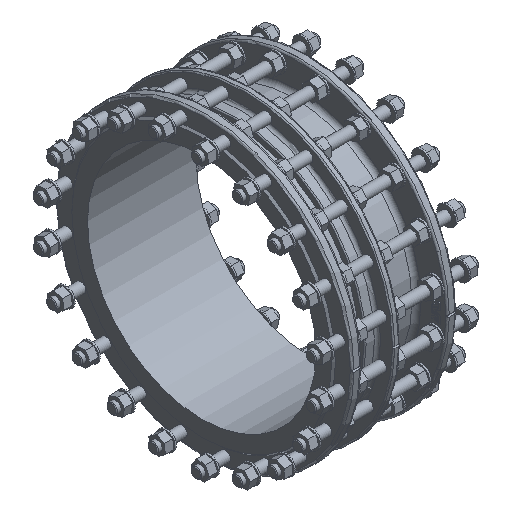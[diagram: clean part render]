
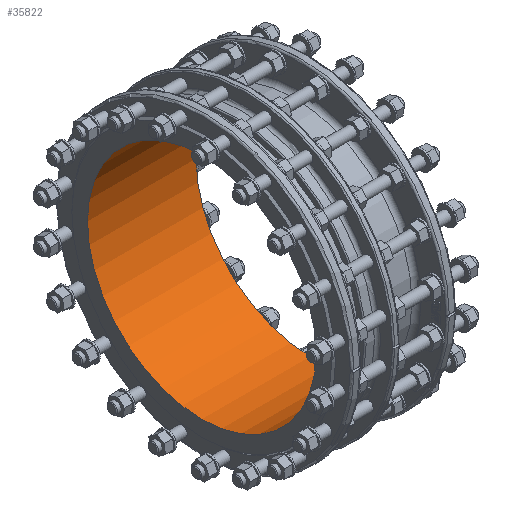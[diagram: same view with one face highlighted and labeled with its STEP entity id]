
A CAD part, isometric view. The second image highlights one B-rep face of the part: STEP entity #35822.
In plain terms, the highlighted cylindrical face has radius 300 mm (diameter 600 mm), a full revolution.
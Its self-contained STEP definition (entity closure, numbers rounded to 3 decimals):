
#547 = DIRECTION ( 'NONE',  ( -1., 0., 0. ) ) ;
#1669 = VERTEX_POINT ( 'NONE', #23746 ) ;
#5507 = ORIENTED_EDGE ( 'NONE', *, *, #33081, .F. ) ;
#7269 = EDGE_LOOP ( 'NONE', ( #5507 ) ) ;
#8074 = DIRECTION ( 'NONE',  ( 1., 0., 0. ) ) ;
#8090 = FACE_OUTER_BOUND ( 'NONE', #7269, .T. ) ;
#11574 = DIRECTION ( 'NONE',  ( 0., 0., 1. ) ) ;
#13170 = CYLINDRICAL_SURFACE ( 'NONE', #23065, 300. ) ;
#13700 = FACE_OUTER_BOUND ( 'NONE', #30301, .T. ) ;
#15542 = VERTEX_POINT ( 'NONE', #29687 ) ;
#16064 = DIRECTION ( 'NONE',  ( -1., 0., 0. ) ) ;
#17024 = CARTESIAN_POINT ( 'NONE',  ( 219., 0., 0. ) ) ;
#19413 = ORIENTED_EDGE ( 'NONE', *, *, #23332, .F. ) ;
#19471 = DIRECTION ( 'NONE',  ( 0., 0., -1. ) ) ;
#22244 = CIRCLE ( 'NONE', #24543, 300. ) ;
#22922 = CIRCLE ( 'NONE', #35063, 300. ) ;
#23065 = AXIS2_PLACEMENT_3D ( 'NONE', #30007, #16064, #27290 ) ;
#23332 = EDGE_CURVE ( 'NONE', #1669, #1669, #22244, .T. ) ;
#23746 = CARTESIAN_POINT ( 'NONE',  ( 219., 0., 300. ) ) ;
#24543 = AXIS2_PLACEMENT_3D ( 'NONE', #17024, #547, #11574 ) ;
#24555 = CARTESIAN_POINT ( 'NONE',  ( -66., 0., 0. ) ) ;
#27290 = DIRECTION ( 'NONE',  ( 0., 0., 1. ) ) ;
#29687 = CARTESIAN_POINT ( 'NONE',  ( -66., 0., -300. ) ) ;
#30007 = CARTESIAN_POINT ( 'NONE',  ( 0., 0., 0. ) ) ;
#30301 = EDGE_LOOP ( 'NONE', ( #19413 ) ) ;
#33081 = EDGE_CURVE ( 'NONE', #15542, #15542, #22922, .T. ) ;
#35063 = AXIS2_PLACEMENT_3D ( 'NONE', #24555, #8074, #19471 ) ;
#35822 = ADVANCED_FACE ( 'NONE', ( #13700, #8090 ), #13170, .F. ) ;
